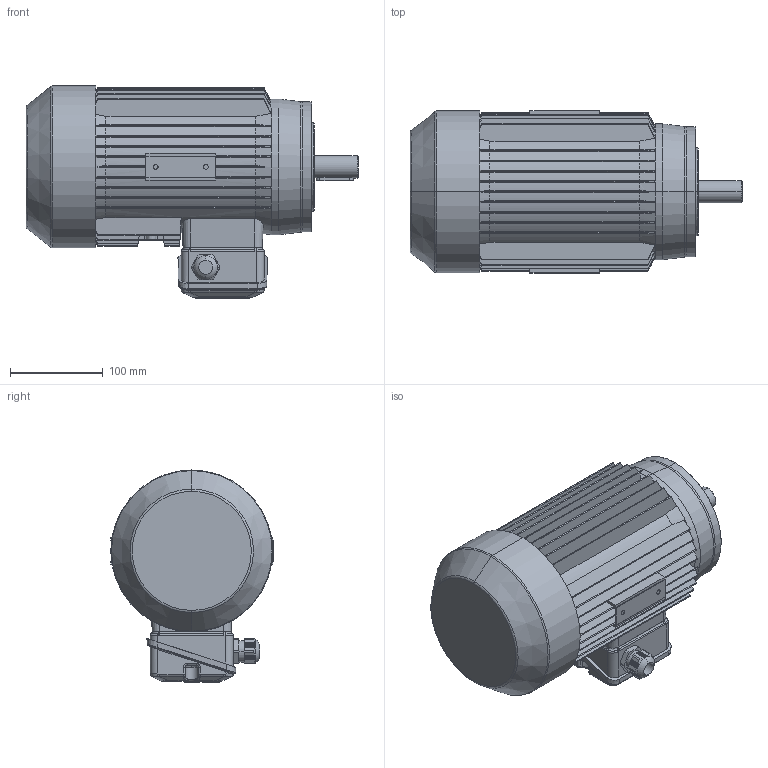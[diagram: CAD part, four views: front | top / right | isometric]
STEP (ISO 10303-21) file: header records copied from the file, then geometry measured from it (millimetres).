
FILE_DESCRIPTION (( 'STEP AP214' ), '1' );
FILE_NAME ('MAP90L6A IM3641 FT115.STEP', '2021-04-28T08:05:15', ( '' ), ( '' ), 'SwSTEP 2.0', 'SolidWorks 2018', '' );
FILE_SCHEMA (( 'AUTOMOTIVE_DESIGN' ));
Length unit declared in the file: millimetre
Products named in the file (1): MAP90L6A IM3641 FT115
Bounding box: 357 x 174.5 x 228 mm (x, y, z)
Volume: 5999801.3 mm3; surface area: 420017 mm2
Topology: 2 solids, 8 shells, 1084 faces, 2874 edges, 1846 vertices
Faces by surface type: plane 510, cylinder 260, cone 150, bspline 114, torus 48, sphere 2
Entity records: 41110 total; most frequent: CARTESIAN_POINT 15878, ORIENTED_EDGE 5744, DIRECTION 4610, EDGE_CURVE 2872, VERTEX_POINT 1846, AXIS2_PLACEMENT_3D 1591, VECTOR 1428, LINE 1428
